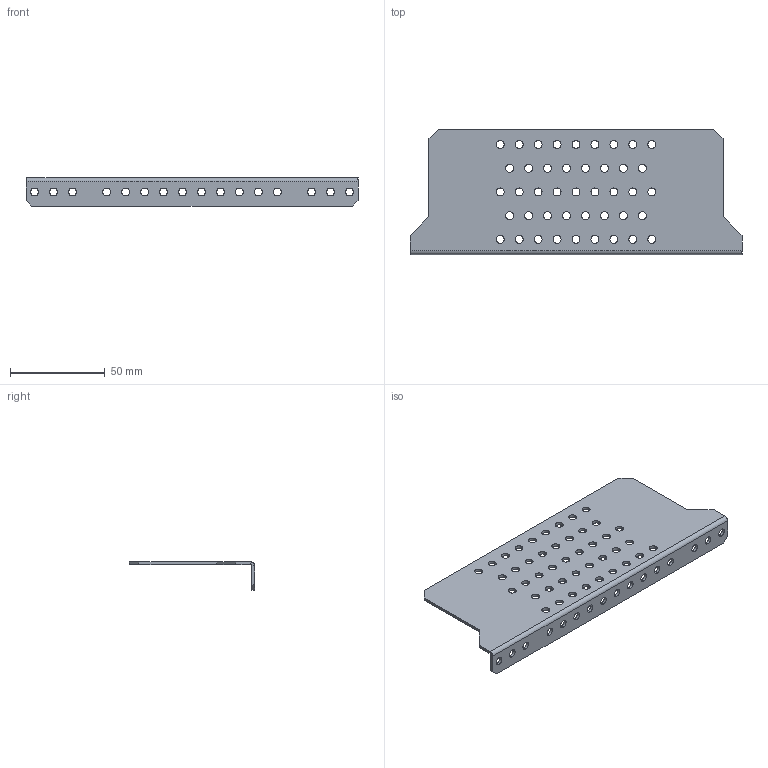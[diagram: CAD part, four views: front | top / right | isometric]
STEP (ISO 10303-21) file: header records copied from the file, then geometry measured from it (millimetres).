
FILE_DESCRIPTION(('CAx-IF Rec.Pracs.---Model Styling and Organization---1.2---2011-12-15','CAx-IF Rec.Pracs.---Geometric and Assembly Validation Properties---4.1---2014-06-16','CAx-IF Rec.Pracs.---PMI Polyline Presentation---2.0---2013-05-24'),'2;1');
FILE_NAME('R5M2W2M2BP.stp','2021-05-05T12:09:11+03:00',(''),(''),'STEP Interface 4.4 by CT CoreTechnologie','3D_Evolution4.4 by CT CoreTechnologie','');
FILE_SCHEMA(('AUTOMOTIVE_DESIGN { 1 0 10303 214 1 1 1 1 }'));
Length unit declared in the file: millimetre
Products named in the file (2): R5M2W2M2BP; RB.1200.00.00.0_-03
Assembly tree (1 placements, depth 2):
  R5M2W2M2BP
    RB.1200.00.00.0_-03
Bounding box: 175 x 66 x 15 mm (x, y, z)
Surface area: 25777.2 mm2 (no closed solid volume)
Topology: 0 solids, 1 shells, 140 faces, 406 edges, 268 vertices
Faces by surface type: cylinder 120, plane 20
Entity records: 5055 total; most frequent: DIRECTION 930, CARTESIAN_POINT 816, ORIENTED_EDGE 812, EDGE_CURVE 406, AXIS2_PLACEMENT_3D 382, VERTEX_POINT 268, EDGE_LOOP 258, CIRCLE 240
